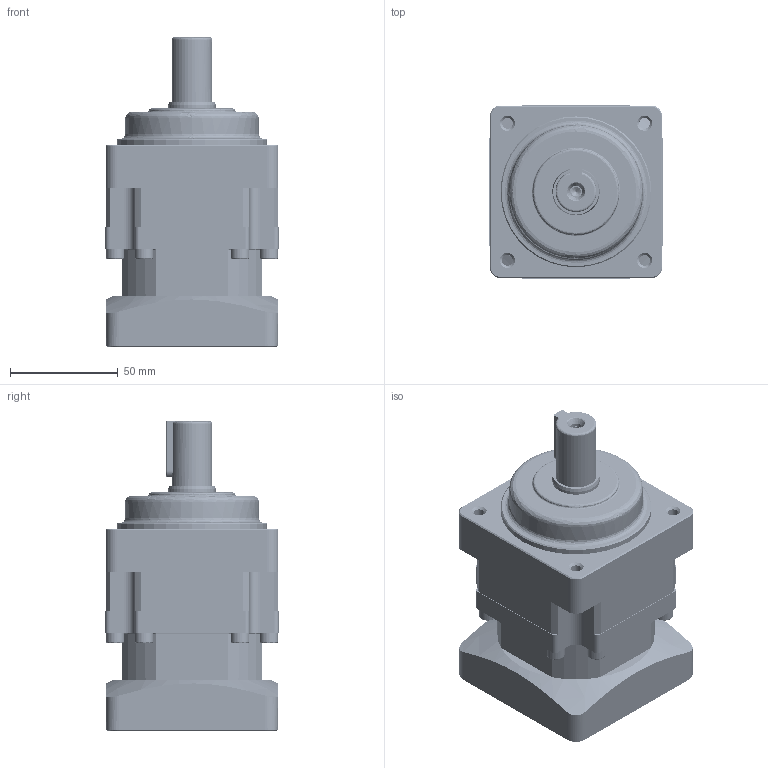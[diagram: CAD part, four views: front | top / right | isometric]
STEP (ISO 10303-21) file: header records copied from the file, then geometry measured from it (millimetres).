
FILE_DESCRIPTION (( 'STEP AP214' ), '1' );
FILE_NAME ('VRSF080-L1-S2-P2 19-70-90-M6.STEP', '2022-02-14T05:11:41', ( 'Admin' ), ( '' ), 'SwSTEP 2.0', 'SolidWorks 2018', '' );
FILE_SCHEMA (( 'AUTOMOTIVE_DESIGN' ));
Length unit declared in the file: millimetre
Products named in the file (12): VRSF080-604_2; VRSF080-750-609; VRSF080-626-004_2; VRSF080-616; VRSF080-604; VRSF080-L1-S2-P2 19-70-90-M6; M5-20; M5-25; VRSF080-626-004; VRSF080-616_2; VRSF080-605-002; C6X6X26
Assembly tree (21 placements, depth 2):
  VRSF080-L1-S2-P2 19-70-90-M6
    VRSF080-604_2
    VRSF080-604
    VRSF080-605-002
    VRSF080-626-004
    VRSF080-626-004_2
    VRSF080-616
    VRSF080-616_2
    VRSF080-750-609
    M5-25  x8
    M5-20  x4
    C6X6X26
Bounding box: 80.5 x 80.5 x 143.5 mm (x, y, z)
Volume: 510152 mm3; surface area: 99253.3 mm2
Topology: 18 solids, 27 shells, 3832 faces, 8453 edges, 4669 vertices
Faces by surface type: cone 2258, cylinder 1252, plane 283, bspline 39
Entity records: 27363 total; most frequent: CARTESIAN_POINT 6008, DIRECTION 4816, ORIENTED_EDGE 4098, EDGE_CURVE 2067, AXIS2_PLACEMENT_3D 1928, VERTEX_POINT 1208, CIRCLE 1020, EDGE_LOOP 965
